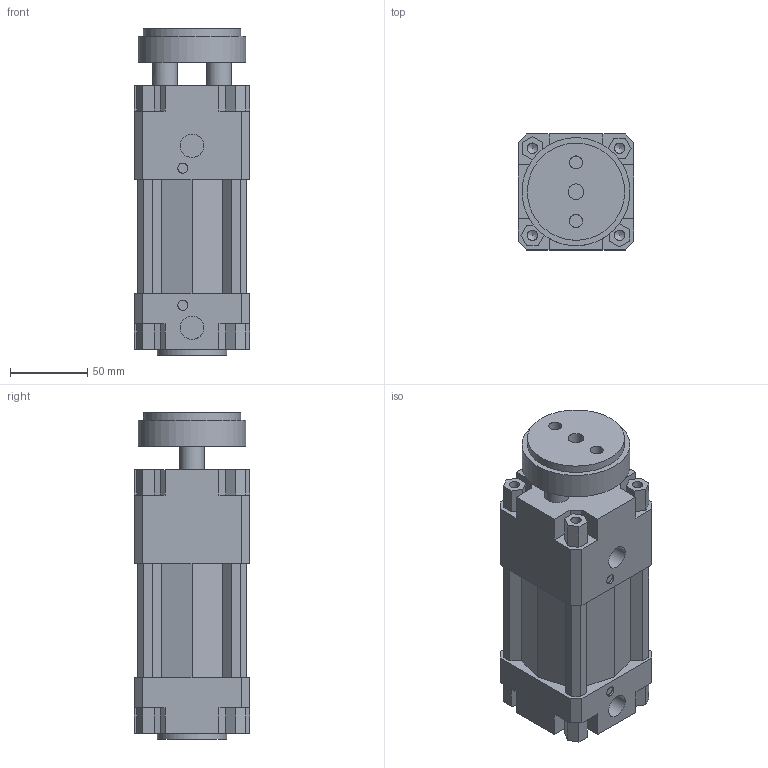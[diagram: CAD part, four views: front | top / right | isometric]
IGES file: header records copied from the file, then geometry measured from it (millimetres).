
Global section: file name: 134#_063_0025_01; native system: Autodesk Inventor 2014; preprocessor: unknown; author: A. Manieri; date: 20161006.165058; units: millimetre
Bounding box: 75 x 75 x 212 mm (x, y, z)
Volume: 845202.8 mm3; surface area: 139964.2 mm2
Topology: 2 solids, 2 shells, 180 faces, 491 edges, 335 vertices
Faces by surface type: bspline 180
